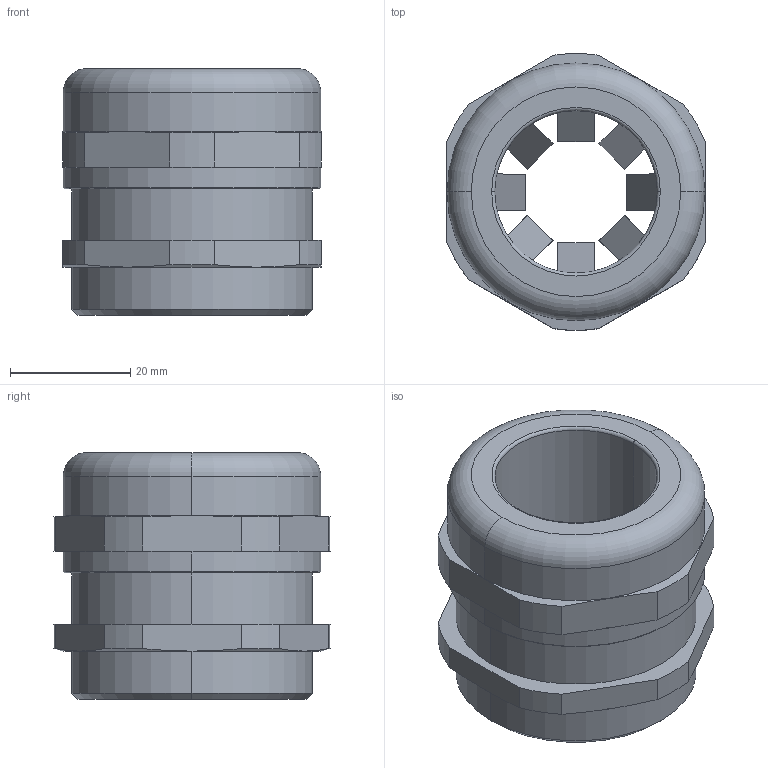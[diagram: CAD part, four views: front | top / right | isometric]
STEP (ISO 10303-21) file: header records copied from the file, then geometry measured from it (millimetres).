
FILE_DESCRIPTION (( 'STEP AP203' ), '1' );
FILE_NAME ('50.640 M-EMVD.STEP', '2006-04-11T08:10:30', ( ' ' ), ( '' ), 'SwSTEP 2.0', 'SolidWorks 2005278', '' );
FILE_SCHEMA (( 'CONFIG_CONTROL_DESIGN' ));
Length unit declared in the file: millimetre
Products named in the file (1): 50.640 M-EMVD
Bounding box: 43 x 45.93 x 41 mm (x, y, z)
Volume: 32073.6 mm3; surface area: 12925.5 mm2
Topology: 1 solids, 1 shells, 168 faces, 438 edges, 288 vertices
Faces by surface type: plane 112, cylinder 42, cone 10, torus 4
Entity records: 5241 total; most frequent: CARTESIAN_POINT 979, ORIENTED_EDGE 876, DIRECTION 850, EDGE_CURVE 438, VECTOR 316, LINE 316, VERTEX_POINT 288, AXIS2_PLACEMENT_3D 267
